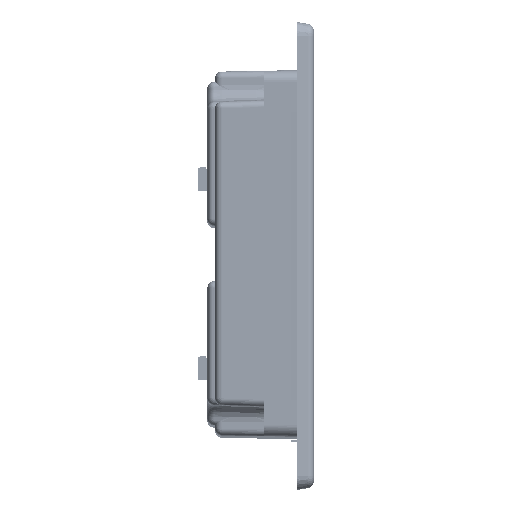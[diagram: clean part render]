
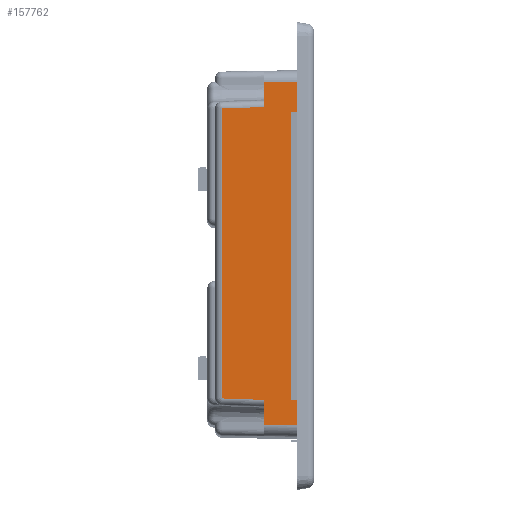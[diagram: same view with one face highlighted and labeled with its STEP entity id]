
A CAD part, left-side view. The second image highlights one B-rep face of the part: STEP entity #157762.
In plain terms, the highlighted planar face has unit normal (-1, 0.018, 0.004) as drawn and (1, 0, 0.017) by its records, which use the part's own axes.
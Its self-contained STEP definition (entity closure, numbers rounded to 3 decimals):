
#24914=ORIENTED_EDGE('',*,*,#63394,.F.);
#24915=ORIENTED_EDGE('',*,*,#63261,.F.);
#24916=ORIENTED_EDGE('',*,*,#63395,.T.);
#24917=ORIENTED_EDGE('',*,*,#63317,.F.);
#24918=ORIENTED_EDGE('',*,*,#63396,.T.);
#24919=ORIENTED_EDGE('',*,*,#63386,.F.);
#24920=ORIENTED_EDGE('',*,*,#63397,.T.);
#24921=ORIENTED_EDGE('',*,*,#63398,.T.);
#63261=EDGE_CURVE('',#83809,#83810,#99088,.T.);
#63317=EDGE_CURVE('',#83843,#83844,#99118,.T.);
#63386=EDGE_CURVE('',#83884,#83885,#99161,.T.);
#63394=EDGE_CURVE('',#83810,#83890,#99164,.T.);
#63395=EDGE_CURVE('',#83809,#83844,#99165,.T.);
#63396=EDGE_CURVE('',#83843,#83885,#99166,.T.);
#63397=EDGE_CURVE('',#83884,#83891,#99167,.T.);
#63398=EDGE_CURVE('',#83891,#83890,#99168,.T.);
#83809=VERTEX_POINT('',#315273);
#83810=VERTEX_POINT('',#315275);
#83843=VERTEX_POINT('',#315586);
#83844=VERTEX_POINT('',#315590);
#83884=VERTEX_POINT('',#315790);
#83885=VERTEX_POINT('',#315792);
#83890=VERTEX_POINT('',#315812);
#83891=VERTEX_POINT('',#315818);
#99088=LINE('',#315274,#117034);
#99118=LINE('',#315589,#117064);
#99161=LINE('',#315791,#117107);
#99164=LINE('',#315813,#117110);
#99165=LINE('',#315815,#117111);
#99166=LINE('',#315816,#117112);
#99167=LINE('',#315817,#117113);
#99168=LINE('',#315819,#117114);
#117034=VECTOR('',#244169,1000.);
#117064=VECTOR('',#244245,1000.);
#117107=VECTOR('',#244374,1000.);
#117110=VECTOR('',#244387,1000.);
#117111=VECTOR('',#244390,1000.);
#117112=VECTOR('',#244391,1000.);
#117113=VECTOR('',#244392,1000.);
#117114=VECTOR('',#244393,1000.);
#131024=EDGE_LOOP('',(#24914,#24915,#24916,#24917,#24918,#24919,#24920,
#24921));
#141577=FACE_BOUND('',#131024,.T.);
#150370=PLANE('',#222655);
#157762=ADVANCED_FACE('',(#141577),#150370,.T.);
#222655=AXIS2_PLACEMENT_3D('',#315814,#244388,#244389);
#244169=DIRECTION('',(0.,1.,0.));
#244245=DIRECTION('',(0.,-1.,0.));
#244374=DIRECTION('',(0.,1.,0.));
#244387=DIRECTION('',(-0.017,0.035,0.999));
#244388=DIRECTION('',(1.,0.,0.017));
#244389=DIRECTION('',(0.,-1.,0.));
#244390=DIRECTION('',(0.017,-0.017,-1.));
#244391=DIRECTION('',(-0.017,-0.017,1.));
#244392=DIRECTION('',(-0.017,-0.035,0.999));
#244393=DIRECTION('',(0.,-1.,0.));
#315273=CARTESIAN_POINT('',(103.284,-81.352,-9.588));
#315274=CARTESIAN_POINT('',(103.284,-85.317,-9.588));
#315275=CARTESIAN_POINT('',(103.284,-72.345,-9.588));
#315586=CARTESIAN_POINT('',(103.502,43.27,-22.074));
#315589=CARTESIAN_POINT('',(103.502,47.017,-22.074));
#315590=CARTESIAN_POINT('',(103.502,-81.57,-22.074));
#315790=CARTESIAN_POINT('',(103.284,34.045,-9.588));
#315791=CARTESIAN_POINT('',(103.284,-85.317,-9.588));
#315792=CARTESIAN_POINT('',(103.284,43.052,-9.588));
#315812=CARTESIAN_POINT('',(103.016,-71.809,5.748));
#315813=CARTESIAN_POINT('',(102.976,-71.729,8.046));
#315814=CARTESIAN_POINT('',(103.052,47.017,3.705));
#315815=CARTESIAN_POINT('',(103.284,-81.352,-9.588));
#315816=CARTESIAN_POINT('',(103.502,43.27,-22.074));
#315817=CARTESIAN_POINT('',(103.284,34.045,-9.588));
#315818=CARTESIAN_POINT('',(103.016,33.51,5.748));
#315819=CARTESIAN_POINT('',(103.016,47.017,5.748));
